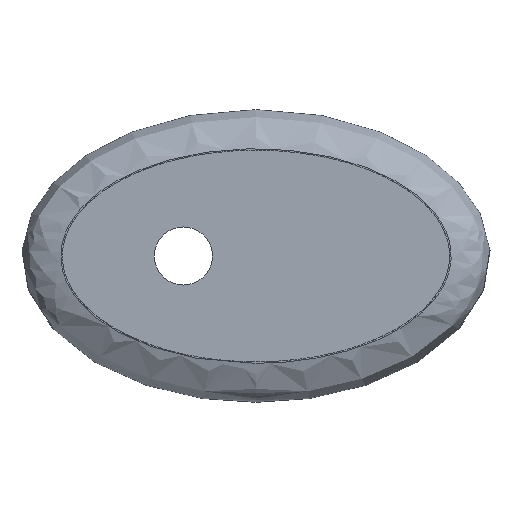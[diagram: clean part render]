
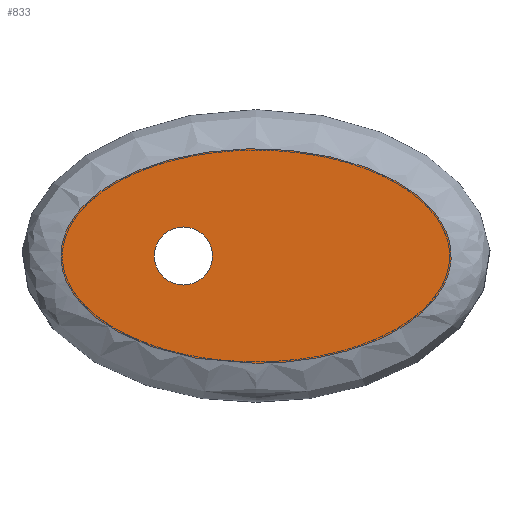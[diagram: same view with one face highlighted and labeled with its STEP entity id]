
A CAD part, left-side view. The second image highlights one B-rep face of the part: STEP entity #833.
In plain terms, the highlighted planar face has unit normal (-1, 0, 0).
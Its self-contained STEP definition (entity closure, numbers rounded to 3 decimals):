
#22 = VERTEX_POINT('',#23);
#23 = CARTESIAN_POINT('',(17.2,0.,89.225));
#52 = EDGE_CURVE('',#22,#22,#53,.T.);
#53 = ( BOUNDED_CURVE() B_SPLINE_CURVE(2,(#54,#55,#56,#57,#58,#59,#60),
.UNSPECIFIED.,.T.,.F.) B_SPLINE_CURVE_WITH_KNOTS((3,2,2,3),(0.,
0.333,0.667,1.),.PIECEWISE_BEZIER_KNOTS.) CURVE() 
GEOMETRIC_REPRESENTATION_ITEM() RATIONAL_B_SPLINE_CURVE((1.273,
    0.636,1.273,0.636,1.273,
0.636,1.273)) REPRESENTATION_ITEM('') );
#54 = CARTESIAN_POINT('',(17.2,0.,89.225));
#55 = CARTESIAN_POINT('',(17.2,37.239,89.225));
#56 = CARTESIAN_POINT('',(17.2,18.62,106.963));
#57 = CARTESIAN_POINT('',(17.2,0.,124.7));
#58 = CARTESIAN_POINT('',(17.2,-18.62,106.963));
#59 = CARTESIAN_POINT('',(17.2,-37.239,89.225));
#60 = CARTESIAN_POINT('',(17.2,0.,89.225));
#833 = ADVANCED_FACE('',(#834,#837),#848,.F.);
#834 = FACE_BOUND('',#835,.F.);
#835 = EDGE_LOOP('',(#836));
#836 = ORIENTED_EDGE('',*,*,#52,.T.);
#837 = FACE_BOUND('',#838,.F.);
#838 = EDGE_LOOP('',(#839));
#839 = ORIENTED_EDGE('',*,*,#840,.F.);
#840 = EDGE_CURVE('',#841,#841,#843,.T.);
#841 = VERTEX_POINT('',#842);
#842 = CARTESIAN_POINT('',(17.2,8.,104.25));
#843 = CIRCLE('',#844,3.2);
#844 = AXIS2_PLACEMENT_3D('',#845,#846,#847);
#845 = CARTESIAN_POINT('',(17.2,8.,101.05));
#846 = DIRECTION('',(1.,0.,-0.));
#847 = DIRECTION('',(0.,0.,1.));
#848 = PLANE('',#849);
#849 = AXIS2_PLACEMENT_3D('',#850,#851,#852);
#850 = CARTESIAN_POINT('',(17.2,0.,89.225));
#851 = DIRECTION('',(1.,0.,0.));
#852 = DIRECTION('',(0.,0.724,0.69));
